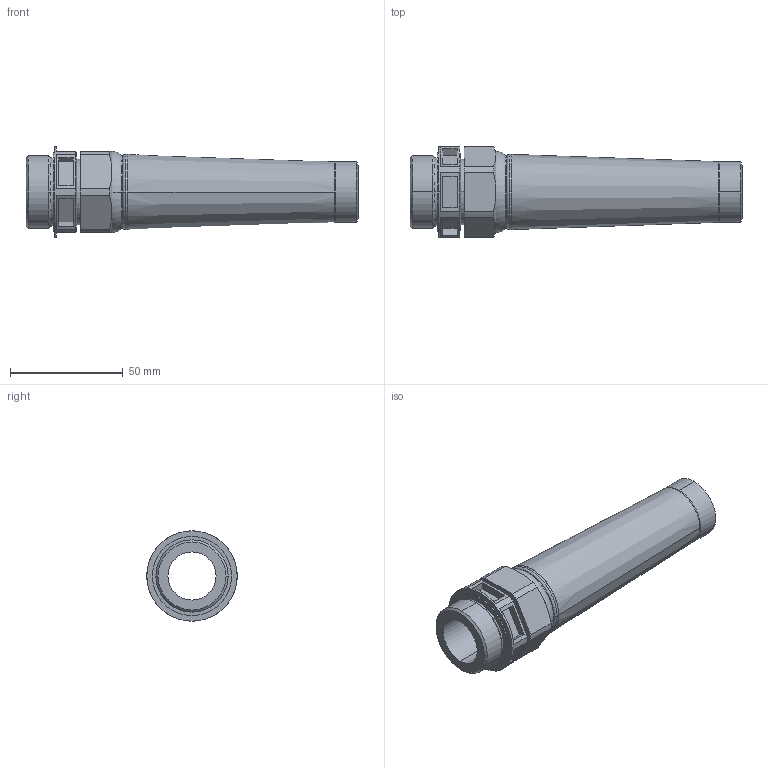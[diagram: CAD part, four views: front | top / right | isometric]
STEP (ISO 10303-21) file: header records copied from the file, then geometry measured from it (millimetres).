
FILE_DESCRIPTION(('SolidDesigner STEP Export'),'2;1');
FILE_NAME('1415176_G_INB_M32_M68N_PEPDS_LG-select.stp','2014-09-25T 8:59:54',(''),(''),'Creo Elements/Direct Modeling STEP processor for AP214 (Solid Model)','Creo Elements/Direct Modeling 18.1B 29-Sep-2012 (C) Parametric Technology GmbH','');
FILE_SCHEMA(('AUTOMOTIVE_DESIGN { 1 0 10303 214 1 1 1 1 }'));
Length unit declared in the file: millimetre
Products named in the file (2): 1415176_G_INB_M32_M68N_PEPDS_LG-select
Assembly tree (1 placements, depth 2):
  1415176_G_INB_M32_M68N_PEPDS_LG-select
    1415176_G_INB_M32_M68N_PEPDS_LG-select
Bounding box: 147 x 40 x 40 mm (x, y, z)
Volume: 61115.5 mm3; surface area: 27613.9 mm2
Topology: 1 solids, 1 shells, 97 faces, 267 edges, 181 vertices
Faces by surface type: plane 53, cylinder 22, cone 12, torus 10
Entity records: 3835 total; most frequent: CARTESIAN_POINT 659, ORIENTED_EDGE 534, DIRECTION 448, EDGE_CURVE 267, VERTEX_POINT 181, AXIS2_PLACEMENT_3D 156, VECTOR 136, LINE 136
